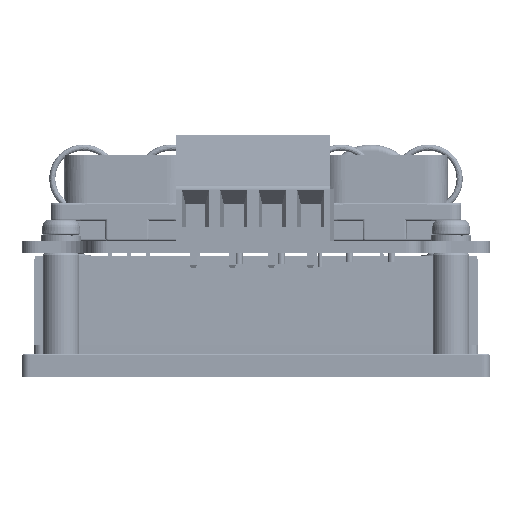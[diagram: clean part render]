
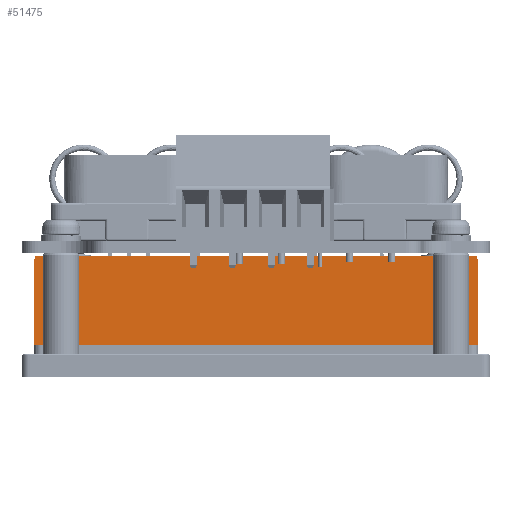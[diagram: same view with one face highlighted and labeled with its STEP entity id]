
A CAD part, left-side view. The second image highlights one B-rep face of the part: STEP entity #51475.
In plain terms, the highlighted planar face has unit normal (-1, 0, 0.009).
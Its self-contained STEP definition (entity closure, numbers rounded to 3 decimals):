
#5806 = DIRECTION ( 'NONE',  ( 0., -1., 0. ) ) ;
#15795 = EDGE_CURVE ( 'NONE', #304747, #123806, #116286, .T. ) ;
#30099 = CARTESIAN_POINT ( 'NONE',  ( 14.441, 39.076, -1.88 ) ) ;
#44535 = CARTESIAN_POINT ( 'NONE',  ( 14.34, -18.723, -13.48 ) ) ;
#50922 = AXIS2_PLACEMENT_3D ( 'NONE', #72542, #296909, #67600 ) ;
#51475 = ADVANCED_FACE ( 'NONE', ( #301862 ), #92709, .T. ) ;
#53496 = DIRECTION ( 'NONE',  ( 0., -1., 0. ) ) ;
#59894 = CARTESIAN_POINT ( 'NONE',  ( 14.34, -17.723, -13.48 ) ) ;
#62347 = VECTOR ( 'NONE', #5806, 1000. ) ;
#65251 = VECTOR ( 'NONE', #248748, 1000. ) ;
#67600 = DIRECTION ( 'NONE',  ( 0., 1., 0. ) ) ;
#72542 = CARTESIAN_POINT ( 'NONE',  ( 14.34, -18.723, -13.48 ) ) ;
#72792 = EDGE_CURVE ( 'NONE', #304747, #161243, #101829, .T. ) ;
#92392 = CARTESIAN_POINT ( 'NONE',  ( 14.34, 39.177, -13.48 ) ) ;
#92709 = PLANE ( 'NONE',  #50922 ) ;
#100681 = VERTEX_POINT ( 'NONE', #59894 ) ;
#101829 = LINE ( 'NONE', #277650, #218566 ) ;
#102040 = LINE ( 'NONE', #179052, #146469 ) ;
#107917 = EDGE_CURVE ( 'NONE', #161243, #196659, #309651, .T. ) ;
#116286 = LINE ( 'NONE', #246785, #180331 ) ;
#119800 = CARTESIAN_POINT ( 'NONE',  ( 14.34, -18.723, -13.48 ) ) ;
#123806 = VERTEX_POINT ( 'NONE', #92392 ) ;
#145095 = ORIENTED_EDGE ( 'NONE', *, *, #228478, .T. ) ;
#145481 = EDGE_LOOP ( 'NONE', ( #145095, #152507, #261739, #293745, #330012, #175001 ) ) ;
#146469 = VECTOR ( 'NONE', #53496, 1000. ) ;
#152507 = ORIENTED_EDGE ( 'NONE', *, *, #175178, .T. ) ;
#157078 = EDGE_CURVE ( 'NONE', #100681, #196659, #102040, .T. ) ;
#158157 = CARTESIAN_POINT ( 'NONE',  ( 14.34, -18.723, -13.48 ) ) ;
#161243 = VERTEX_POINT ( 'NONE', #269455 ) ;
#163126 = CARTESIAN_POINT ( 'NONE',  ( 14.34, 38.177, -13.48 ) ) ;
#175001 = ORIENTED_EDGE ( 'NONE', *, *, #15795, .T. ) ;
#175178 = EDGE_CURVE ( 'NONE', #245354, #100681, #312074, .T. ) ;
#179052 = CARTESIAN_POINT ( 'NONE',  ( 14.34, -18.723, -13.48 ) ) ;
#180331 = VECTOR ( 'NONE', #218364, 1000. ) ;
#182460 = CARTESIAN_POINT ( 'NONE',  ( 14.34, -18.723, -13.48 ) ) ;
#184114 = DIRECTION ( 'NONE',  ( -0.009, -0.009, -1. ) ) ;
#196659 = VERTEX_POINT ( 'NONE', #119800 ) ;
#218364 = DIRECTION ( 'NONE',  ( -0.009, 0.009, -1. ) ) ;
#218566 = VECTOR ( 'NONE', #255840, 1000. ) ;
#228478 = EDGE_CURVE ( 'NONE', #123806, #245354, #273854, .T. ) ;
#245354 = VERTEX_POINT ( 'NONE', #163126 ) ;
#246785 = CARTESIAN_POINT ( 'NONE',  ( 14.344, 39.173, -12.975 ) ) ;
#248748 = DIRECTION ( 'NONE',  ( 0., -1., 0. ) ) ;
#255840 = DIRECTION ( 'NONE',  ( 0., -1., 0. ) ) ;
#261739 = ORIENTED_EDGE ( 'NONE', *, *, #157078, .T. ) ;
#269455 = CARTESIAN_POINT ( 'NONE',  ( 14.441, -18.622, -1.88 ) ) ;
#273854 = LINE ( 'NONE', #44535, #65251 ) ;
#277650 = CARTESIAN_POINT ( 'NONE',  ( 14.441, -18.723, -1.88 ) ) ;
#293745 = ORIENTED_EDGE ( 'NONE', *, *, #107917, .F. ) ;
#295468 = VECTOR ( 'NONE', #184114, 1000. ) ;
#296909 = DIRECTION ( 'NONE',  ( -1., 0., 0.009 ) ) ;
#301862 = FACE_OUTER_BOUND ( 'NONE', #145481, .T. ) ;
#304747 = VERTEX_POINT ( 'NONE', #30099 ) ;
#309651 = LINE ( 'NONE', #182460, #295468 ) ;
#312074 = LINE ( 'NONE', #158157, #62347 ) ;
#330012 = ORIENTED_EDGE ( 'NONE', *, *, #72792, .F. ) ;
